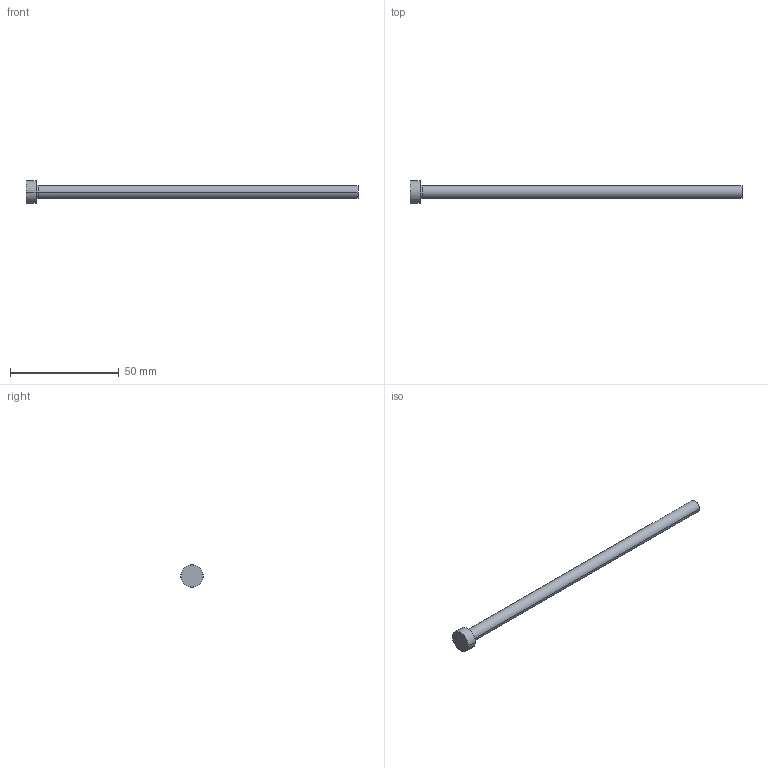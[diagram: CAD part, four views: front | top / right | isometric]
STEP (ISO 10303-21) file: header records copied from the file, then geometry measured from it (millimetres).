
FILE_DESCRIPTION (( 'STEP AP214' ), '1' );
FILE_NAME ('P16-6.STEP', '2020-03-11T18:35:26', ( '' ), ( '' ), 'SwSTEP 2.0', 'SolidWorks 2018', '' );
FILE_SCHEMA (( 'AUTOMOTIVE_DESIGN' ));
Length unit declared in the file: inch
Products named in the file (1): P16-6
Bounding box: 152.4 x 10.32 x 10.32 mm (x, y, z)
Volume: 4499.3 mm3; surface area: 3069.5 mm2
Topology: 1 solids, 1 shells, 13 faces, 24 edges, 14 vertices
Faces by surface type: cone 4, cylinder 4, plane 3, torus 2
Entity records: 366 total; most frequent: DIRECTION 68, CARTESIAN_POINT 52, ORIENTED_EDGE 48, AXIS2_PLACEMENT_3D 30, EDGE_CURVE 24, CIRCLE 16, VERTEX_POINT 14, EDGE_LOOP 14
